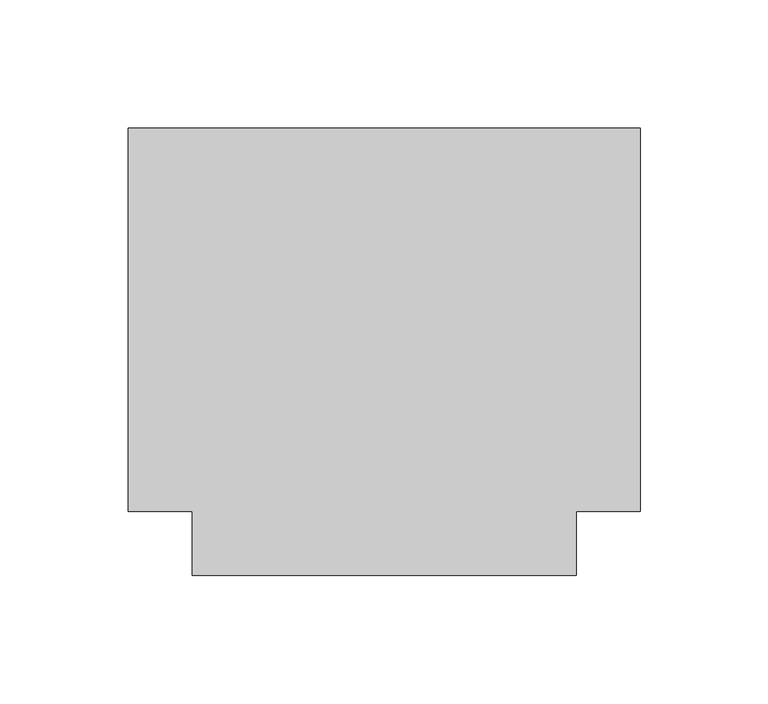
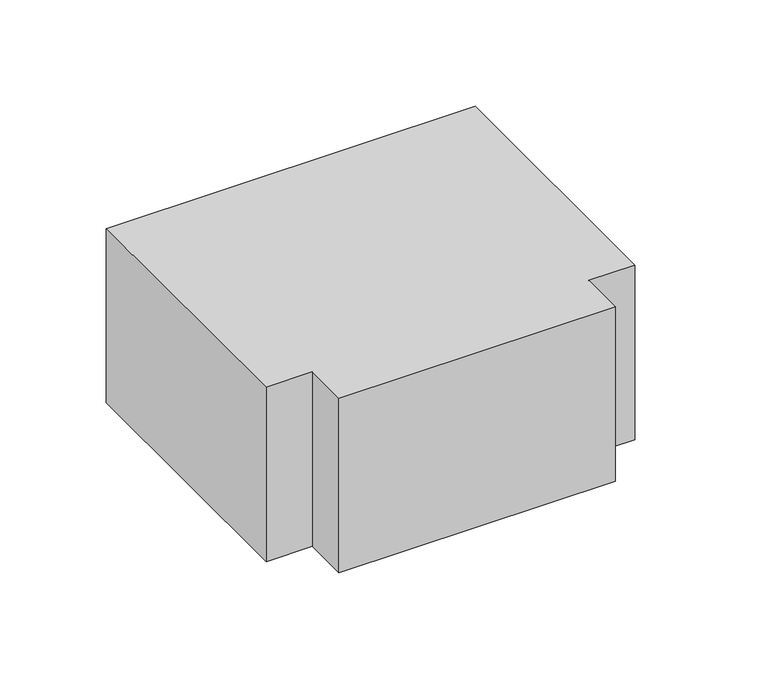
"""IFC4 building model written with IfcOpenShell, lengths in millimetres: duct fitting geometry, M_Te rectangular : Estándar."""

import ifcopenshell
import ifcopenshell.guid

model = None  # the IFC model being written
_history = None  # IfcOwnerHistory: only IFC2X3 demands one
_inside = {}  # id of a spatial element -> (the spatial element, [elements in it])
_under = {}  # id of a project, library or spatial element -> (it, [spatial elements below it])
_declared = {}  # id of a project -> (the project, [libraries it declares])
_typed = {}  # id of a type object -> (the type object, [elements of that type])
_made_of = {}  # id of a material, layer set ... -> (it, [elements and type objects made of it])


def new_model(schema):
    """Start an empty IFC model of exactly this schema.

    Asked for "IFC4X3", IfcOpenShell would pick the latest addendum, in which some entities
    have other attributes; the version numbers below select the first issue.
    IFC2X3 requires an IfcOwnerHistory on every rooted entity: one is made here for all.
    """
    global model, _history
    if schema == "IFC4X3":
        model = ifcopenshell.file(schema_version=(4, 3, 0, 0))
    else:
        model = ifcopenshell.file(schema=schema)
    _inside.clear()
    _under.clear()
    _declared.clear()
    _typed.clear()
    _made_of.clear()
    _history = None
    if model.schema == "IFC2X3":
        org = make("IfcOrganization", Name="unknown")
        user = make(
            "IfcPersonAndOrganization",
            ThePerson=make("IfcPerson", FamilyName="unknown"),
            TheOrganization=org,
        )
        app = make(
            "IfcApplication",
            ApplicationDeveloper=org,
            Version="unknown",
            ApplicationFullName="unknown",
            ApplicationIdentifier="unknown",
        )
        _history = make(
            "IfcOwnerHistory",
            OwningUser=user,
            OwningApplication=app,
            ChangeAction="ADDED",
            CreationDate=0,
        )
    return model


def make(cls, **values):
    """One entity of the class cls with the attributes given. An attribute that is None is left unset."""
    return model.create_entity(
        cls, **{name: value for name, value in values.items() if value is not None}
    )


def rooted(cls, **values):
    """An entity with a GlobalId (a new one), such as an element, a storey or a relation."""
    return make(cls, GlobalId=ifcopenshell.guid.new(), OwnerHistory=_history, **values)


def si_unit(unit_type, name, prefix=None):
    """IfcSIUnit, for example si_unit("LENGTHUNIT", "METRE", prefix="MILLI")."""
    return make("IfcSIUnit", UnitType=unit_type, Prefix=prefix, Name=name)


def assignment(units):
    """IfcUnitAssignment: the units of a project."""
    return None if units is None else make("IfcUnitAssignment", Units=units)


def point(xyz):
    """IfcCartesianPoint."""
    return None if xyz is None else make("IfcCartesianPoint", Coordinates=xyz)


def direction(xyz):
    """IfcDirection."""
    return None if xyz is None else make("IfcDirection", DirectionRatios=xyz)


def frame(location, z_axis=None, x_axis=None):
    """IfcAxis2Placement3D, a coordinate frame: its origin and axes. An axis left out is left unset."""
    return make(
        "IfcAxis2Placement3D",
        Location=point(location),
        Axis=direction(z_axis),
        RefDirection=direction(x_axis),
    )


def origin():
    """The frame at (0, 0, 0) with its axes left unset."""
    return frame((0.0, 0.0, 0.0))


def place(relative_to, where):
    """IfcLocalPlacement: puts the frame where relative to a parent placement (None: the world)."""
    return make(
        "IfcLocalPlacement", PlacementRelTo=relative_to, RelativePlacement=where
    )


def context(
    kind, dimensions, precision=None, world=None, true_north=None, identifier=None
):
    """IfcGeometricRepresentationContext, for example the 3D "Model" context."""
    return make(
        "IfcGeometricRepresentationContext",
        ContextIdentifier=identifier,
        ContextType=kind,
        CoordinateSpaceDimension=dimensions,
        Precision=precision,
        WorldCoordinateSystem=world,
        TrueNorth=true_north,
    )


def project(units=None, contexts=None):
    """IfcProject with its units and contexts."""
    return rooted(
        "IfcProject",
        Name="project",
        RepresentationContexts=contexts,
        UnitsInContext=assignment(units),
    )


def spatial(cls, under=None, at=None, **own):
    """A site, building, storey or space (cls), placed at a placement, below another one or the project."""
    s = rooted(cls, ObjectPlacement=at, **own)
    if under is not None:
        _under.setdefault(under.id(), (under, []))[1].append(s)
    return s


def polyline(points):
    """IfcPolyline through the points."""
    return make("IfcPolyline", Points=[point(p) for p in points])


def outline(outer, holes=None, kind="AREA"):
    """IfcArbitraryClosedProfileDef: a profile drawn as a closed curve; with holes, ...WithVoids."""
    if holes is None:
        return make("IfcArbitraryClosedProfileDef", ProfileType=kind, OuterCurve=outer)
    return make(
        "IfcArbitraryProfileDefWithVoids",
        ProfileType=kind,
        OuterCurve=outer,
        InnerCurves=holes,
    )


def extrude(swept, where, along, depth):
    """IfcExtrudedAreaSolid: the profile swept, set in the frame where, extruded along a direction by depth."""
    return make(
        "IfcExtrudedAreaSolid",
        SweptArea=swept,
        Position=where,
        ExtrudedDirection=direction(along),
        Depth=depth,
    )


def shape(context_of_items, identifier, shape_type, items):
    """IfcShapeRepresentation: the items that make up one representation, for example the "Body"."""
    return make(
        "IfcShapeRepresentation",
        ContextOfItems=context_of_items,
        RepresentationIdentifier=identifier,
        RepresentationType=shape_type,
        Items=items,
    )


def source(mapping_origin, context_of_items, identifier, shape_type, items):
    """IfcRepresentationMap: a shape defined once, which mapped items show again and again."""
    return make(
        "IfcRepresentationMap",
        MappingOrigin=mapping_origin,
        MappedRepresentation=shape(context_of_items, identifier, shape_type, items),
    )


def transform(
    local_origin,
    x_axis=None,
    y_axis=None,
    z_axis=None,
    scale=None,
    scale2=None,
    scale3=None,
    uniform=True,
):
    """IfcCartesianTransformationOperator3D, or its non-uniform kind. x_axis, y_axis, z_axis: its Axis1, 2, 3."""
    if uniform:
        return make(
            "IfcCartesianTransformationOperator3D",
            Axis1=direction(x_axis),
            Axis2=direction(y_axis),
            LocalOrigin=point(local_origin),
            Scale=scale,
            Axis3=direction(z_axis),
        )
    return make(
        "IfcCartesianTransformationOperator3DnonUniform",
        Axis1=direction(x_axis),
        Axis2=direction(y_axis),
        LocalOrigin=point(local_origin),
        Scale=scale,
        Axis3=direction(z_axis),
        Scale2=scale2,
        Scale3=scale3,
    )


def mapped(mapping_source, mapping_target):
    """IfcMappedItem: shows the shape of a source again, moved by a transform."""
    return make(
        "IfcMappedItem", MappingSource=mapping_source, MappingTarget=mapping_target
    )


def made_of(thing, what):
    """Note that an element or type object is made of a material, layer set ...; save() writes the relation."""
    if what is not None:
        _made_of.setdefault(what.id(), (what, []))[1].append(thing)
    return thing


def element(
    cls,
    number,
    at=None,
    inside=None,
    cuts=None,
    type_object=None,
    material=None,
    context=None,
    identifier="Body",
    shape_type=None,
    held_by="IfcProductDefinitionShape",
    body=None,
    shapes=None,
    **own,
):
    """One element of the class cls, such as IfcWall. Its Tag is "e" and its number.

    at: its placement. inside: the storey or other place that contains it. cuts: it is an
    opening in that element (IfcRelVoidsElement). A single representation is given by context,
    identifier, shape_type and body (its items); several are given by shapes. held_by: the class
    of the entity that holds the representations. save() writes the other relations.
    """
    e = rooted(cls, Tag="e%d" % number, ObjectPlacement=at, **own)
    if body is not None:
        shapes = [shape(context, identifier, shape_type, body)]
    if shapes is not None:
        e.Representation = make(held_by, Representations=shapes)
    if inside is not None:
        _inside.setdefault(inside.id(), (inside, []))[1].append(e)
    if cuts is not None:
        rooted(
            "IfcRelVoidsElement", RelatingBuildingElement=cuts, RelatedOpeningElement=e
        )
    if type_object is not None:
        _typed.setdefault(type_object.id(), (type_object, []))[1].append(e)
    return made_of(e, material)


def aggregate(whole, parts):
    """IfcRelAggregates: a whole, such as a stair, and the parts it consists of."""
    return rooted("IfcRelAggregates", RelatingObject=whole, RelatedObjects=parts)


def save(model, path):
    """Write the relations noted so far, then the file.

    IfcRelAggregates (storeys below a building ...), IfcRelContainedInSpatialStructure (elements
    in a storey), IfcRelDefinesByType, IfcRelAssociatesMaterial and IfcRelDeclares: one each for
    every whole, place, type object, material and project.
    """
    for whole, parts in _under.values():
        aggregate(whole, parts)
    for where, things in _inside.values():
        rooted(
            "IfcRelContainedInSpatialStructure",
            RelatedElements=things,
            RelatingStructure=where,
        )
    for kind, things in _typed.values():
        rooted("IfcRelDefinesByType", RelatedObjects=things, RelatingType=kind)
    for what, things in _made_of.values():
        rooted("IfcRelAssociatesMaterial", RelatedObjects=things, RelatingMaterial=what)
    for by, libraries in _declared.values():
        rooted("IfcRelDeclares", RelatingContext=by, RelatedDefinitions=libraries)
    model.write(path)


def duct_fitting_82440352(model_context):
    return source(origin(), model_context, "Body", "SweptSolid", [
        extrude(outline(polyline([(-100.0, -75.0), (-100.0, 75.0), (100.0, 75.0), (100.0, -75.0), (75.0, -75.0), (75.0, -100.0), (-75.0, -100.0), (-75.0, -75.0), (-100.0, -75.0)])), frame((0.0, 0.0, -50.0), z_axis=(0.0, 0.0, 1.0), x_axis=(1.0, 0.0, 0.0)), (0.0, 0.0, 1.0), 100.0),
    ])


if __name__ == "__main__":
    model = new_model("IFC4")
    model_context = context("Model", 3, world=origin())
    ifc_project = project(units=[si_unit("LENGTHUNIT", "METRE", prefix="MILLI")], contexts=[model_context])
    site = spatial("IfcSite", under=ifc_project)
    building = spatial("IfcBuilding", under=site)
    placement = place(None, origin())
    duct_fitting_shape = duct_fitting_82440352(model_context)
    element("IfcDuctFitting", 1, ObjectType="M_Te rectangular : Estándar", at=placement, inside=building, context=model_context, shape_type="MappedRepresentation", body=[
        mapped(duct_fitting_shape, transform((0.0, 0.0, 0.0), x_axis=(1.0, 0.0, 0.0), y_axis=(0.0, 1.0, 0.0), z_axis=(0.0, 0.0, 1.0))),
    ])
    save(model, "model.ifc")
